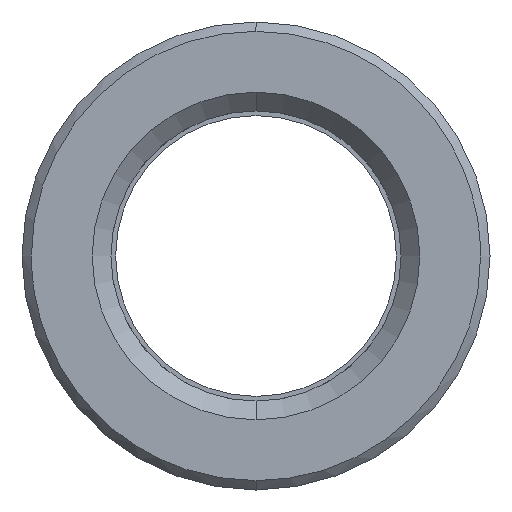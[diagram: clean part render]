
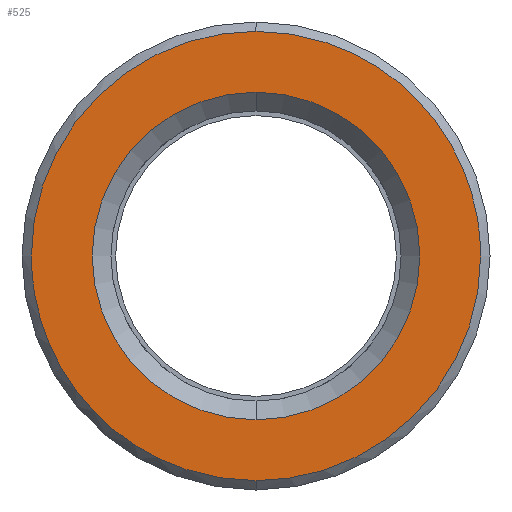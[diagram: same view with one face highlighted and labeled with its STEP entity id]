
A CAD part, left-side view. The second image highlights one B-rep face of the part: STEP entity #525.
In plain terms, the highlighted planar face has unit normal (-1, 0, 0).
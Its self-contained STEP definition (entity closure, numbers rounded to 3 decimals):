
#305=CARTESIAN_POINT('Axis2P3D Location',(0.,0.,0.)) ;
#309=CARTESIAN_POINT('Vertex',(0.,8.75,0.)) ;
#311=CARTESIAN_POINT('Vertex',(0.,0.,8.75)) ;
#314=CARTESIAN_POINT('Axis2P3D Location',(0.,0.,0.)) ;
#318=CARTESIAN_POINT('Vertex',(0.,0.,-8.75)) ;
#345=CARTESIAN_POINT('Axis2P3D Location',(0.,0.,0.)) ;
#349=CARTESIAN_POINT('Vertex',(0.,-8.75,0.)) ;
#352=CARTESIAN_POINT('Axis2P3D Location',(0.,0.,0.)) ;
#432=CARTESIAN_POINT('Axis2P3D Location',(0.,12.,0.)) ;
#438=CARTESIAN_POINT('Control Point',(0.,0.,-12.)) ;
#439=CARTESIAN_POINT('Control Point',(0.,0.982,-12.)) ;
#440=CARTESIAN_POINT('Control Point',(0.,1.964,-11.9)) ;
#441=CARTESIAN_POINT('Control Point',(0.,2.932,-11.699)) ;
#442=CARTESIAN_POINT('Control Point',(0.,5.011,-11.039)) ;
#443=CARTESIAN_POINT('Control Point',(0.,6.895,-9.93)) ;
#444=CARTESIAN_POINT('Control Point',(0.,7.845,-9.197)) ;
#445=CARTESIAN_POINT('Control Point',(0.,9.546,-7.512)) ;
#446=CARTESIAN_POINT('Control Point',(0.,10.784,-5.463)) ;
#447=CARTESIAN_POINT('Control Point',(0.,11.273,-4.367)) ;
#448=CARTESIAN_POINT('Control Point',(0.,11.741,-2.824)) ;
#449=CARTESIAN_POINT('Control Point',(0.,11.947,-1.236)) ;
#450=CARTESIAN_POINT('Control Point',(0.,11.982,-0.824)) ;
#451=CARTESIAN_POINT('Control Point',(0.,12.,-0.412)) ;
#452=CARTESIAN_POINT('Control Point',(0.,12.,0.)) ;
#453=CARTESIAN_POINT('Vertex',(0.,0.,-12.)) ;
#455=CARTESIAN_POINT('Vertex',(0.,12.,0.)) ;
#459=CARTESIAN_POINT('Control Point',(0.,-12.,0.)) ;
#460=CARTESIAN_POINT('Control Point',(0.,-12.,-1.188)) ;
#461=CARTESIAN_POINT('Control Point',(0.,-11.853,-2.376)) ;
#462=CARTESIAN_POINT('Control Point',(0.,-11.559,-3.54)) ;
#463=CARTESIAN_POINT('Control Point',(0.,-10.689,-5.77)) ;
#464=CARTESIAN_POINT('Control Point',(0.,-9.302,-7.721)) ;
#465=CARTESIAN_POINT('Control Point',(0.,-8.49,-8.605)) ;
#466=CARTESIAN_POINT('Control Point',(0.,-6.665,-10.155)) ;
#467=CARTESIAN_POINT('Control Point',(0.,-4.518,-11.213)) ;
#468=CARTESIAN_POINT('Control Point',(0.,-3.384,-11.606)) ;
#469=CARTESIAN_POINT('Control Point',(0.,-2.01,-11.897)) ;
#470=CARTESIAN_POINT('Control Point',(0.,-0.618,-11.987)) ;
#471=CARTESIAN_POINT('Control Point',(0.,-0.412,-11.996)) ;
#472=CARTESIAN_POINT('Control Point',(0.,-0.206,-12.)) ;
#473=CARTESIAN_POINT('Control Point',(0.,0.,-12.)) ;
#474=CARTESIAN_POINT('Vertex',(0.,-12.,0.)) ;
#478=CARTESIAN_POINT('Control Point',(0.,0.,12.)) ;
#479=CARTESIAN_POINT('Control Point',(0.,-0.982,12.)) ;
#480=CARTESIAN_POINT('Control Point',(0.,-1.964,11.9)) ;
#481=CARTESIAN_POINT('Control Point',(0.,-2.932,11.699)) ;
#482=CARTESIAN_POINT('Control Point',(0.,-5.011,11.039)) ;
#483=CARTESIAN_POINT('Control Point',(0.,-6.895,9.93)) ;
#484=CARTESIAN_POINT('Control Point',(0.,-7.845,9.197)) ;
#485=CARTESIAN_POINT('Control Point',(0.,-9.546,7.512)) ;
#486=CARTESIAN_POINT('Control Point',(0.,-10.784,5.463)) ;
#487=CARTESIAN_POINT('Control Point',(0.,-11.273,4.367)) ;
#488=CARTESIAN_POINT('Control Point',(0.,-11.741,2.824)) ;
#489=CARTESIAN_POINT('Control Point',(0.,-11.947,1.236)) ;
#490=CARTESIAN_POINT('Control Point',(0.,-11.982,0.824)) ;
#491=CARTESIAN_POINT('Control Point',(0.,-12.,0.412)) ;
#492=CARTESIAN_POINT('Control Point',(0.,-12.,0.)) ;
#493=CARTESIAN_POINT('Vertex',(0.,0.,12.)) ;
#497=CARTESIAN_POINT('Control Point',(0.,12.,0.)) ;
#498=CARTESIAN_POINT('Control Point',(0.,12.,1.188)) ;
#499=CARTESIAN_POINT('Control Point',(0.,11.853,2.376)) ;
#500=CARTESIAN_POINT('Control Point',(0.,11.559,3.54)) ;
#501=CARTESIAN_POINT('Control Point',(0.,10.689,5.77)) ;
#502=CARTESIAN_POINT('Control Point',(0.,9.302,7.721)) ;
#503=CARTESIAN_POINT('Control Point',(0.,8.49,8.605)) ;
#504=CARTESIAN_POINT('Control Point',(0.,6.665,10.155)) ;
#505=CARTESIAN_POINT('Control Point',(0.,4.518,11.213)) ;
#506=CARTESIAN_POINT('Control Point',(0.,3.384,11.606)) ;
#507=CARTESIAN_POINT('Control Point',(0.,2.01,11.897)) ;
#508=CARTESIAN_POINT('Control Point',(0.,0.618,11.987)) ;
#509=CARTESIAN_POINT('Control Point',(0.,0.412,11.996)) ;
#510=CARTESIAN_POINT('Control Point',(0.,0.206,12.)) ;
#511=CARTESIAN_POINT('Control Point',(0.,0.,12.)) ;
#306=DIRECTION('Axis2P3D Direction',(-1.,0.,0.)) ;
#315=DIRECTION('Axis2P3D Direction',(-1.,0.,0.)) ;
#346=DIRECTION('Axis2P3D Direction',(-1.,0.,0.)) ;
#353=DIRECTION('Axis2P3D Direction',(-1.,0.,0.)) ;
#433=DIRECTION('Axis2P3D Direction',(-1.,0.,0.)) ;
#434=DIRECTION('Axis2P3D XDirection',(0.,0.,1.)) ;
#307=AXIS2_PLACEMENT_3D('Circle Axis2P3D',#305,#306,$) ;
#316=AXIS2_PLACEMENT_3D('Circle Axis2P3D',#314,#315,$) ;
#347=AXIS2_PLACEMENT_3D('Circle Axis2P3D',#345,#346,$) ;
#354=AXIS2_PLACEMENT_3D('Circle Axis2P3D',#352,#353,$) ;
#435=AXIS2_PLACEMENT_3D('Plane Axis2P3D',#432,#433,#434) ;
#514=ORIENTED_EDGE('',*,*,#457,.F.) ;
#515=ORIENTED_EDGE('',*,*,#476,.F.) ;
#516=ORIENTED_EDGE('',*,*,#495,.F.) ;
#517=ORIENTED_EDGE('',*,*,#512,.F.) ;
#520=ORIENTED_EDGE('',*,*,#313,.T.) ;
#521=ORIENTED_EDGE('',*,*,#356,.T.) ;
#522=ORIENTED_EDGE('',*,*,#351,.T.) ;
#523=ORIENTED_EDGE('',*,*,#320,.T.) ;
#524=FACE_BOUND('',#519,.T.) ;
#525=ADVANCED_FACE('553-15X86',(#518,#524),#436,.T.) ;
#437=B_SPLINE_CURVE_WITH_KNOTS('',5,(#438,#439,#440,#441,#442,#443,#444,#445,#446,#447,#448,#449,#450,#451,#452),.UNSPECIFIED.,.F.,.U.,(6,3,3,3,6),(26.657,33.6,42.,50.399,53.312),.UNSPECIFIED.) ;
#458=B_SPLINE_CURVE_WITH_KNOTS('',5,(#459,#460,#461,#462,#463,#464,#465,#466,#467,#468,#469,#470,#471,#472,#473),.UNSPECIFIED.,.F.,.U.,(6,3,3,3,6),(0.,8.4,16.8,25.2,26.657),.UNSPECIFIED.) ;
#477=B_SPLINE_CURVE_WITH_KNOTS('',5,(#478,#479,#480,#481,#482,#483,#484,#485,#486,#487,#488,#489,#490,#491,#492),.UNSPECIFIED.,.F.,.U.,(6,3,3,3,6),(26.657,33.6,42.,50.399,53.312),.UNSPECIFIED.) ;
#496=B_SPLINE_CURVE_WITH_KNOTS('',5,(#497,#498,#499,#500,#501,#502,#503,#504,#505,#506,#507,#508,#509,#510,#511),.UNSPECIFIED.,.F.,.U.,(6,3,3,3,6),(0.,8.4,16.8,25.2,26.657),.UNSPECIFIED.) ;
#308=CIRCLE('generated circle',#307,8.75) ;
#317=CIRCLE('generated circle',#316,8.75) ;
#348=CIRCLE('generated circle',#347,8.75) ;
#355=CIRCLE('generated circle',#354,8.75) ;
#313=EDGE_CURVE('',#310,#312,#308,.F.) ;
#320=EDGE_CURVE('',#319,#310,#317,.F.) ;
#351=EDGE_CURVE('',#350,#319,#348,.F.) ;
#356=EDGE_CURVE('',#312,#350,#355,.F.) ;
#457=EDGE_CURVE('',#454,#456,#437,.T.) ;
#476=EDGE_CURVE('',#475,#454,#458,.T.) ;
#495=EDGE_CURVE('',#494,#475,#477,.T.) ;
#512=EDGE_CURVE('',#456,#494,#496,.T.) ;
#513=EDGE_LOOP('',(#514,#515,#516,#517)) ;
#519=EDGE_LOOP('',(#520,#521,#522,#523)) ;
#518=FACE_OUTER_BOUND('',#513,.T.) ;
#436=PLANE('Plane',#435) ;
#310=VERTEX_POINT('',#309) ;
#312=VERTEX_POINT('',#311) ;
#319=VERTEX_POINT('',#318) ;
#350=VERTEX_POINT('',#349) ;
#454=VERTEX_POINT('',#453) ;
#456=VERTEX_POINT('',#455) ;
#475=VERTEX_POINT('',#474) ;
#494=VERTEX_POINT('',#493) ;
